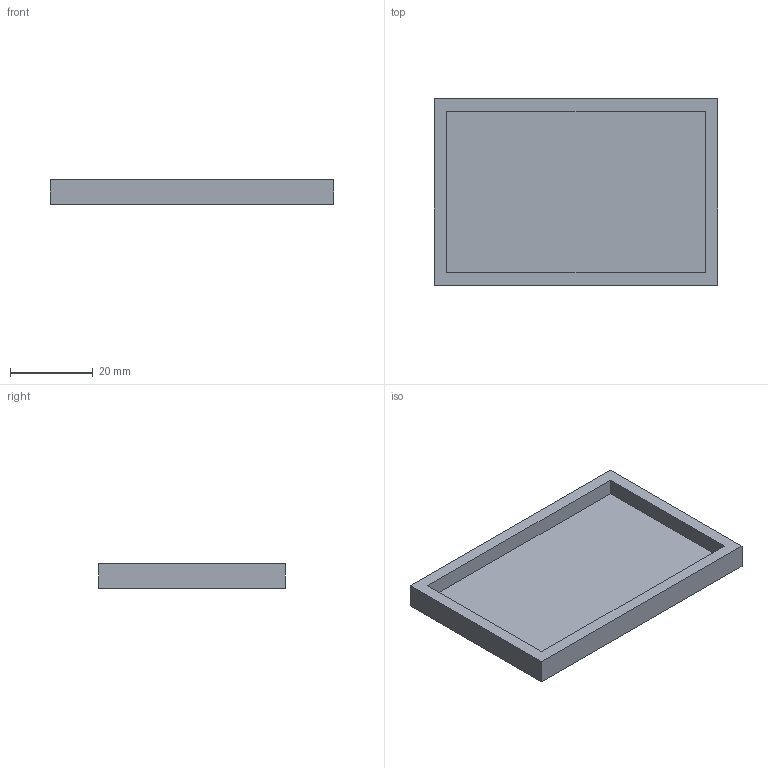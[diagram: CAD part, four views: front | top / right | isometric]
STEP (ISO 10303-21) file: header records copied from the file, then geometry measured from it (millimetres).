
FILE_DESCRIPTION(('Open CASCADE Model'),'2;1');
FILE_NAME('Open CASCADE Shape Model','2026-09-15T13:37:41',('Author'),( 'Open CASCADE'),'Open CASCADE STEP processor 7.7','Open CASCADE 7.7' ,'Unknown');
FILE_SCHEMA(('AUTOMOTIVE_DESIGN { 1 0 10303 214 1 1 1 1 }'));
Length unit declared in the file: millimetre
Products named in the file (1): Open CASCADE STEP translator 7.7 2
Bounding box: 68.6 x 45.1 x 6 mm (x, y, z)
Volume: 8772.5 mm3; surface area: 8365.7 mm2
Topology: 1 solids, 1 shells, 11 faces, 24 edges, 16 vertices
Faces by surface type: plane 11
Entity records: 612 total; most frequent: CARTESIAN_POINT 108, DIRECTION 88, LINE 64, VECTOR 64, ORIENTED_EDGE 48, PCURVE 48, DEFINITIONAL_REPRESENTATION 48, EDGE_CURVE 24
